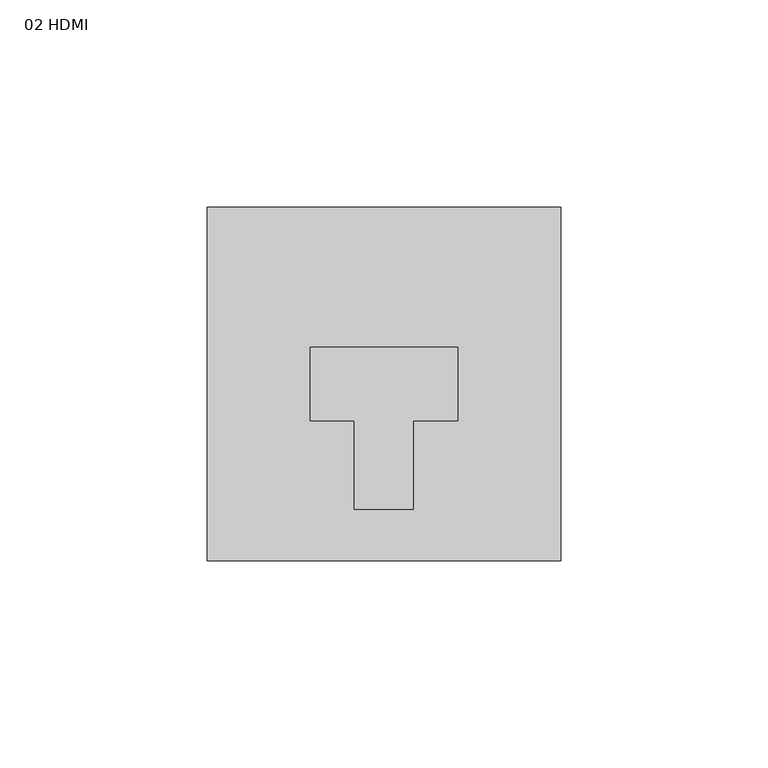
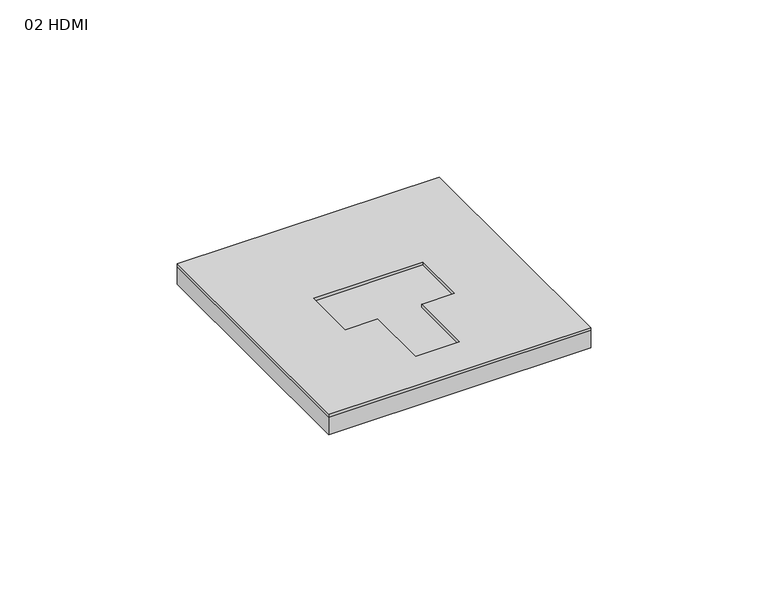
"""IFC4 building model written with IfcOpenShell, lengths in millimetres: proxy geometry, ZYR_08.01.02 Presa Simple Terra : 02 HDMI."""

from ifc_helpers import new_model, si_unit, frame, origin, origin_with_axes, place, context, project, spatial, polyline, outline, extrude, source, transform, mapped, element, save


def proxy_02_hdmi_d5fe61f3(model_context):
    return source(origin(), model_context, "Body", "SweptSolid", [
        extrude(outline(polyline([(42.75, 42.75), (42.75, -42.75), (-42.75, -42.75), (-42.75, 42.75), (42.75, 42.75)]), holes=[polyline([(-17.8125, -8.90625), (-7.125, -8.90625), (-7.125, -30.28125), (7.125, -30.28125), (7.125, -8.90625), (17.8125, -8.90625), (17.8125, 8.90625), (-17.8125, 8.90625), (-17.8125, -8.90625)])]), frame((0.0, 0.0, 6.0), z_axis=(0.0, 0.0, 1.0), x_axis=(1.0, 0.0, 0.0)), (0.0, 0.0, 1.0), 1.0),
        extrude(outline(polyline([(42.75, 42.75), (42.75, -42.75), (-42.75, -42.75), (-42.75, 42.75), (42.75, 42.75)])), origin_with_axes(), (0.0, 0.0, 1.0), 6.0),
    ])


if __name__ == "__main__":
    model = new_model("IFC4")
    model_context = context("Model", 3, world=origin())
    ifc_project = project(units=[si_unit("LENGTHUNIT", "METRE", prefix="MILLI")], contexts=[model_context])
    site = spatial("IfcSite", under=ifc_project)
    building = spatial("IfcBuilding", under=site)
    placement = place(None, origin())
    proxy_02_hdmi_shape = proxy_02_hdmi_d5fe61f3(model_context)
    element("IfcBuildingElementProxy", 1, Name="ZYR_08.01.02 Presa Simple Terra : 02 HDMI", ObjectType="ZYR_08.01.02 Presa Simple Terra : 02 HDMI", at=placement, inside=building, context=model_context, shape_type="MappedRepresentation", body=[
        mapped(proxy_02_hdmi_shape, transform((0.0, 0.0, 0.0), x_axis=(1.0, 0.0, 0.0), y_axis=(0.0, 1.0, 0.0), z_axis=(0.0, 0.0, 1.0))),
    ])
    save(model, "model.ifc")
